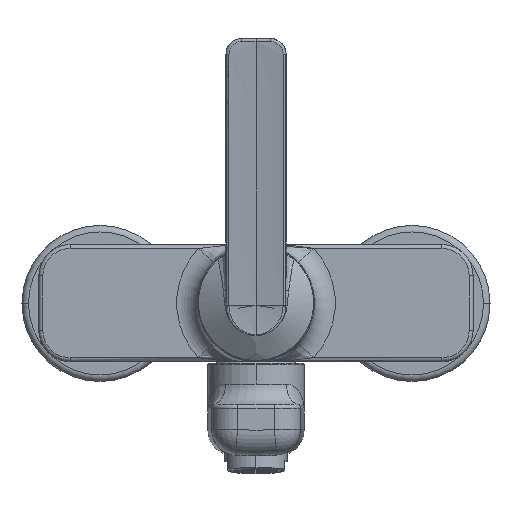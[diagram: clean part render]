
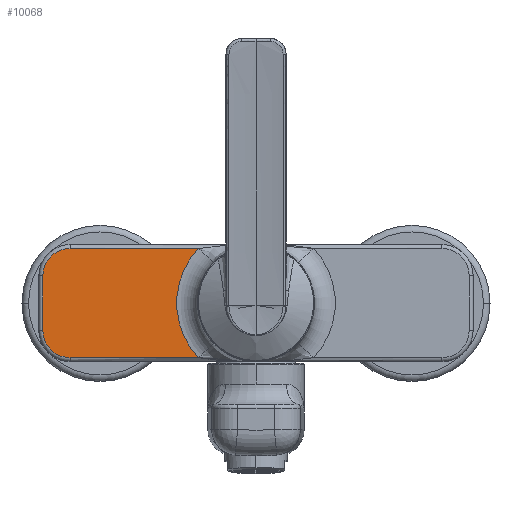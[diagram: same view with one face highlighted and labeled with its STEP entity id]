
A CAD part, top view. The second image highlights one B-rep face of the part: STEP entity #10068.
In plain terms, the highlighted planar face has unit normal (0, 0, 1).
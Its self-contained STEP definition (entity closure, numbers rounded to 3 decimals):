
#356=CARTESIAN_POINT('',(-22.119,21.,14.));
#383=CARTESIAN_POINT('',(0.,0.,14.));
#384=DIRECTION('',(0.,0.,-1.));
#385=DIRECTION('',(-0.725,-0.689,0.));
#386=AXIS2_PLACEMENT_3D('',#383,#384,#385);
#388=DIRECTION('',(-1.,0.,0.));
#389=VECTOR('',#388,49.381);
#390=CARTESIAN_POINT('',(-22.119,-21.,14.));
#391=LINE('',#390,#389);
#392=CARTESIAN_POINT('',(-71.5,-10.5,14.));
#393=DIRECTION('',(0.,0.,-1.));
#394=DIRECTION('',(0.,-1.,0.));
#395=AXIS2_PLACEMENT_3D('',#392,#393,#394);
#397=DIRECTION('',(0.,1.,0.));
#398=VECTOR('',#397,21.);
#399=CARTESIAN_POINT('',(-82.,-10.5,14.));
#400=LINE('',#399,#398);
#401=CARTESIAN_POINT('',(-71.5,10.5,14.));
#402=DIRECTION('',(0.,0.,-1.));
#403=DIRECTION('',(-1.,0.,0.));
#404=AXIS2_PLACEMENT_3D('',#401,#402,#403);
#406=DIRECTION('',(1.,0.,0.));
#407=VECTOR('',#406,49.381);
#408=CARTESIAN_POINT('',(-71.5,21.,14.));
#409=LINE('',#408,#407);
#8598=CARTESIAN_POINT('',(-82.,-10.5,14.));
#8599=CARTESIAN_POINT('',(-82.,10.5,14.));
#8600=VERTEX_POINT('',#8598);
#8601=VERTEX_POINT('',#8599);
#8604=CARTESIAN_POINT('',(-71.5,-21.,14.));
#8605=VERTEX_POINT('',#8604);
#8627=CARTESIAN_POINT('',(-71.5,21.,14.));
#8629=VERTEX_POINT('',#8627);
#8632=VERTEX_POINT('',#356);
#8635=CARTESIAN_POINT('',(-22.119,-21.,14.));
#8636=VERTEX_POINT('',#8635);
#10052=CARTESIAN_POINT('',(-83.5,-22.5,14.));
#10053=DIRECTION('',(0.,0.,1.));
#10054=DIRECTION('',(1.,0.,0.));
#10055=AXIS2_PLACEMENT_3D('',#10052,#10053,#10054);
#10056=PLANE('',#10055);
#10057=ORIENTED_EDGE('',*,*,#9725,.F.);
#10058=ORIENTED_EDGE('',*,*,#9631,.T.);
#10060=ORIENTED_EDGE('',*,*,#10059,.T.);
#10062=ORIENTED_EDGE('',*,*,#10061,.T.);
#10064=ORIENTED_EDGE('',*,*,#10063,.T.);
#10065=ORIENTED_EDGE('',*,*,#9965,.T.);
#10066=EDGE_LOOP('',(#10057,#10058,#10060,#10062,#10064,#10065));
#10067=FACE_OUTER_BOUND('',#10066,.F.);
#10068=ADVANCED_FACE('',(#10067),#10056,.T.);
#387=CIRCLE('',#386,30.5);
#396=CIRCLE('',#395,10.5);
#405=CIRCLE('',#404,10.5);
#9631=EDGE_CURVE('',#8636,#8605,#391,.T.);
#9725=EDGE_CURVE('',#8636,#8632,#387,.T.);
#9965=EDGE_CURVE('',#8629,#8632,#409,.T.);
#10059=EDGE_CURVE('',#8605,#8600,#396,.T.);
#10061=EDGE_CURVE('',#8600,#8601,#400,.T.);
#10063=EDGE_CURVE('',#8601,#8629,#405,.T.);
